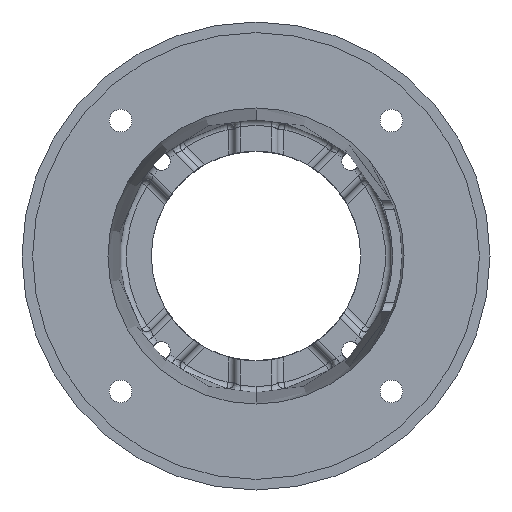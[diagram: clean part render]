
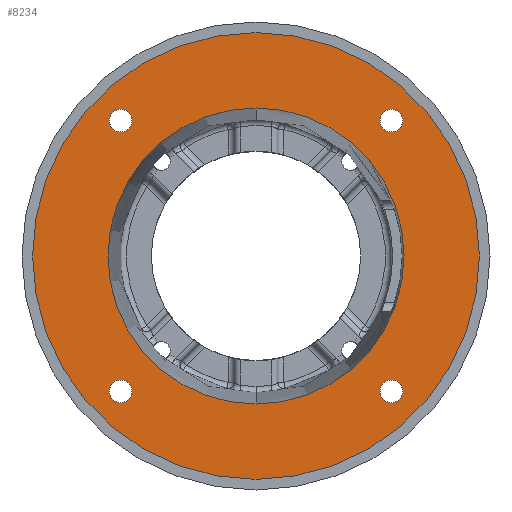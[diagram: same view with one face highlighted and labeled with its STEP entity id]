
A CAD part, front view. The second image highlights one B-rep face of the part: STEP entity #8234.
In plain terms, the highlighted planar face has unit normal (0, -1, 0).
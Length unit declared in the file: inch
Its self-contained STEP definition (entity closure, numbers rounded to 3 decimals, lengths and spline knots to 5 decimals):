
#84 = CARTESIAN_POINT ( 'NONE',  ( 3.18198, 0.18, 2.91636 ) ) ;
#85 = AXIS2_PLACEMENT_3D ( 'NONE', #8694, #1971, #9770 ) ;
#186 = DIRECTION ( 'NONE',  ( 0., -1., 0. ) ) ;
#197 = VERTEX_POINT ( 'NONE', #1060 ) ;
#240 = AXIS2_PLACEMENT_3D ( 'NONE', #5591, #3277, #2133 ) ;
#310 = ORIENTED_EDGE ( 'NONE', *, *, #7714, .T. ) ;
#312 = ORIENTED_EDGE ( 'NONE', *, *, #3278, .T. ) ;
#577 = AXIS2_PLACEMENT_3D ( 'NONE', #7369, #583, #8485 ) ;
#583 = DIRECTION ( 'NONE',  ( 0., 1., 0. ) ) ;
#637 = ORIENTED_EDGE ( 'NONE', *, *, #7900, .F. ) ;
#823 = CIRCLE ( 'NONE', #4268, 0.26562 ) ;
#966 = DIRECTION ( 'NONE',  ( 0., 0., -1. ) ) ;
#1060 = CARTESIAN_POINT ( 'NONE',  ( 3.18198, 0.18, -3.44761 ) ) ;
#1203 = VERTEX_POINT ( 'NONE', #11198 ) ;
#1282 = VERTEX_POINT ( 'NONE', #8473 ) ;
#1487 = CARTESIAN_POINT ( 'NONE',  ( 0., 0.18, 0. ) ) ;
#1562 = EDGE_CURVE ( 'NONE', #1203, #4597, #8122, .T. ) ;
#1721 = CIRCLE ( 'NONE', #4405, 5.2505 ) ;
#1741 = CIRCLE ( 'NONE', #3855, 0.26562 ) ;
#1764 = CIRCLE ( 'NONE', #9143, 0.26562 ) ;
#1829 = DIRECTION ( 'NONE',  ( 0., -1., 0. ) ) ;
#1854 = CARTESIAN_POINT ( 'NONE',  ( 3.18198, 0.18, 3.18198 ) ) ;
#1971 = DIRECTION ( 'NONE',  ( 0., -1., 0. ) ) ;
#1975 = DIRECTION ( 'NONE',  ( 0., -1., 0. ) ) ;
#2133 = DIRECTION ( 'NONE',  ( 0., 0., -1. ) ) ;
#2647 = DIRECTION ( 'NONE',  ( 0., 0., -1. ) ) ;
#2774 = DIRECTION ( 'NONE',  ( 0., -1., 0. ) ) ;
#3017 = DIRECTION ( 'NONE',  ( 0., 0., -1. ) ) ;
#3181 = FACE_BOUND ( 'NONE', #14046, .T. ) ;
#3193 = CARTESIAN_POINT ( 'NONE',  ( -3.18198, 0.18, 2.91636 ) ) ;
#3277 = DIRECTION ( 'NONE',  ( 0., 1., 0. ) ) ;
#3278 = EDGE_CURVE ( 'NONE', #6278, #6946, #1721, .T. ) ;
#3493 = CARTESIAN_POINT ( 'NONE',  ( 3.18198, 0.18, -2.91636 ) ) ;
#3855 = AXIS2_PLACEMENT_3D ( 'NONE', #10591, #4020, #11652 ) ;
#4020 = DIRECTION ( 'NONE',  ( 0., -1., 0. ) ) ;
#4268 = AXIS2_PLACEMENT_3D ( 'NONE', #8553, #1829, #9647 ) ;
#4391 = CIRCLE ( 'NONE', #11873, 5.2505 ) ;
#4405 = AXIS2_PLACEMENT_3D ( 'NONE', #12021, #5585, #13088 ) ;
#4447 = EDGE_LOOP ( 'NONE', ( #5010, #7586 ) ) ;
#4597 = VERTEX_POINT ( 'NONE', #9042 ) ;
#4895 = DIRECTION ( 'NONE',  ( 0., -1., 0. ) ) ;
#5010 = ORIENTED_EDGE ( 'NONE', *, *, #8469, .F. ) ;
#5232 = EDGE_CURVE ( 'NONE', #11986, #6291, #13334, .T. ) ;
#5239 = CIRCLE ( 'NONE', #12968, 0.26562 ) ;
#5585 = DIRECTION ( 'NONE',  ( 0., -1., 0. ) ) ;
#5591 = CARTESIAN_POINT ( 'NONE',  ( 0., 0.18, 0. ) ) ;
#5927 = VERTEX_POINT ( 'NONE', #3493 ) ;
#5968 = CARTESIAN_POINT ( 'NONE',  ( 0., 0.18, 0. ) ) ;
#6063 = AXIS2_PLACEMENT_3D ( 'NONE', #9464, #2774, #10527 ) ;
#6084 = CARTESIAN_POINT ( 'NONE',  ( -3.18198, 0.18, 3.44761 ) ) ;
#6214 = FACE_OUTER_BOUND ( 'NONE', #6881, .T. ) ;
#6240 = EDGE_CURVE ( 'NONE', #6946, #6278, #4391, .T. ) ;
#6260 = ORIENTED_EDGE ( 'NONE', *, *, #7820, .F. ) ;
#6278 = VERTEX_POINT ( 'NONE', #12497 ) ;
#6291 = VERTEX_POINT ( 'NONE', #6084 ) ;
#6552 = EDGE_LOOP ( 'NONE', ( #9196, #6260 ) ) ;
#6555 = FACE_BOUND ( 'NONE', #11111, .T. ) ;
#6881 = EDGE_LOOP ( 'NONE', ( #13127, #312 ) ) ;
#6946 = VERTEX_POINT ( 'NONE', #7442 ) ;
#6980 = CARTESIAN_POINT ( 'NONE',  ( 3.18198, 0.18, 3.18198 ) ) ;
#7369 = CARTESIAN_POINT ( 'NONE',  ( 0., 0.18, 0. ) ) ;
#7417 = AXIS2_PLACEMENT_3D ( 'NONE', #8696, #1975, #9776 ) ;
#7442 = CARTESIAN_POINT ( 'NONE',  ( 0., 0.18, -5.2505 ) ) ;
#7470 = VERTEX_POINT ( 'NONE', #8812 ) ;
#7586 = ORIENTED_EDGE ( 'NONE', *, *, #10588, .F. ) ;
#7632 = EDGE_CURVE ( 'NONE', #13119, #7470, #1764, .T. ) ;
#7650 = CIRCLE ( 'NONE', #6063, 0.26562 ) ;
#7714 = EDGE_CURVE ( 'NONE', #4597, #1203, #9627, .T. ) ;
#7738 = DIRECTION ( 'NONE',  ( 0., -1., 0. ) ) ;
#7820 = EDGE_CURVE ( 'NONE', #5927, #197, #12078, .T. ) ;
#7900 = EDGE_CURVE ( 'NONE', #6291, #11986, #7915, .T. ) ;
#7915 = CIRCLE ( 'NONE', #11723, 0.26562 ) ;
#8103 = DIRECTION ( 'NONE',  ( 0., 0., -1. ) ) ;
#8122 = CIRCLE ( 'NONE', #240, 3.47973 ) ;
#8234 = ADVANCED_FACE ( 'NONE', ( #6555, #11926, #12237, #9105, #6214, #3181 ), #11397, .T. ) ;
#8469 = EDGE_CURVE ( 'NONE', #1282, #12646, #1741, .T. ) ;
#8473 = CARTESIAN_POINT ( 'NONE',  ( -3.18198, 0.18, -3.44761 ) ) ;
#8485 = DIRECTION ( 'NONE',  ( 0., 0., -1. ) ) ;
#8553 = CARTESIAN_POINT ( 'NONE',  ( 3.18198, 0.18, -3.18198 ) ) ;
#8694 = CARTESIAN_POINT ( 'NONE',  ( -3.18198, 0.18, 3.18198 ) ) ;
#8696 = CARTESIAN_POINT ( 'NONE',  ( 3.18198, 0.18, -3.18198 ) ) ;
#8812 = CARTESIAN_POINT ( 'NONE',  ( 3.18198, 0.18, 3.44761 ) ) ;
#8993 = ORIENTED_EDGE ( 'NONE', *, *, #10941, .F. ) ;
#9013 = EDGE_CURVE ( 'NONE', #197, #5927, #823, .T. ) ;
#9042 = CARTESIAN_POINT ( 'NONE',  ( 0., 0.18, 3.47973 ) ) ;
#9105 = FACE_BOUND ( 'NONE', #4447, .T. ) ;
#9143 = AXIS2_PLACEMENT_3D ( 'NONE', #6980, #186, #8103 ) ;
#9196 = ORIENTED_EDGE ( 'NONE', *, *, #9013, .F. ) ;
#9320 = DIRECTION ( 'NONE',  ( 0., -1., 0. ) ) ;
#9464 = CARTESIAN_POINT ( 'NONE',  ( -3.18198, 0.18, -3.18198 ) ) ;
#9627 = CIRCLE ( 'NONE', #577, 3.47973 ) ;
#9647 = DIRECTION ( 'NONE',  ( 0., 0., -1. ) ) ;
#9655 = ORIENTED_EDGE ( 'NONE', *, *, #7632, .F. ) ;
#9668 = DIRECTION ( 'NONE',  ( 0., -1., 0. ) ) ;
#9770 = DIRECTION ( 'NONE',  ( 0., 0., -1. ) ) ;
#9776 = DIRECTION ( 'NONE',  ( 0., 0., -1. ) ) ;
#10021 = AXIS2_PLACEMENT_3D ( 'NONE', #5968, #4895, #12441 ) ;
#10527 = DIRECTION ( 'NONE',  ( 0., 0., -1. ) ) ;
#10588 = EDGE_CURVE ( 'NONE', #12646, #1282, #7650, .T. ) ;
#10591 = CARTESIAN_POINT ( 'NONE',  ( -3.18198, 0.18, -3.18198 ) ) ;
#10941 = EDGE_CURVE ( 'NONE', #7470, #13119, #5239, .T. ) ;
#11111 = EDGE_LOOP ( 'NONE', ( #12694, #637 ) ) ;
#11198 = CARTESIAN_POINT ( 'NONE',  ( 0., 0.18, -3.47973 ) ) ;
#11397 = PLANE ( 'NONE',  #10021 ) ;
#11652 = DIRECTION ( 'NONE',  ( 0., 0., -1. ) ) ;
#11723 = AXIS2_PLACEMENT_3D ( 'NONE', #14087, #7738, #966 ) ;
#11873 = AXIS2_PLACEMENT_3D ( 'NONE', #1487, #9320, #2647 ) ;
#11926 = FACE_BOUND ( 'NONE', #12907, .T. ) ;
#11986 = VERTEX_POINT ( 'NONE', #3193 ) ;
#12021 = CARTESIAN_POINT ( 'NONE',  ( 0., 0.18, 0. ) ) ;
#12078 = CIRCLE ( 'NONE', #7417, 0.26562 ) ;
#12237 = FACE_BOUND ( 'NONE', #6552, .T. ) ;
#12320 = CARTESIAN_POINT ( 'NONE',  ( -3.18198, 0.18, -2.91636 ) ) ;
#12441 = DIRECTION ( 'NONE',  ( 0., 0., -1. ) ) ;
#12497 = CARTESIAN_POINT ( 'NONE',  ( 0., 0.18, 5.2505 ) ) ;
#12646 = VERTEX_POINT ( 'NONE', #12320 ) ;
#12694 = ORIENTED_EDGE ( 'NONE', *, *, #5232, .F. ) ;
#12907 = EDGE_LOOP ( 'NONE', ( #9655, #8993 ) ) ;
#12968 = AXIS2_PLACEMENT_3D ( 'NONE', #1854, #9668, #3017 ) ;
#13088 = DIRECTION ( 'NONE',  ( 0., 0., -1. ) ) ;
#13119 = VERTEX_POINT ( 'NONE', #84 ) ;
#13127 = ORIENTED_EDGE ( 'NONE', *, *, #6240, .T. ) ;
#13334 = CIRCLE ( 'NONE', #85, 0.26562 ) ;
#14042 = ORIENTED_EDGE ( 'NONE', *, *, #1562, .T. ) ;
#14046 = EDGE_LOOP ( 'NONE', ( #14042, #310 ) ) ;
#14087 = CARTESIAN_POINT ( 'NONE',  ( -3.18198, 0.18, 3.18198 ) ) ;
